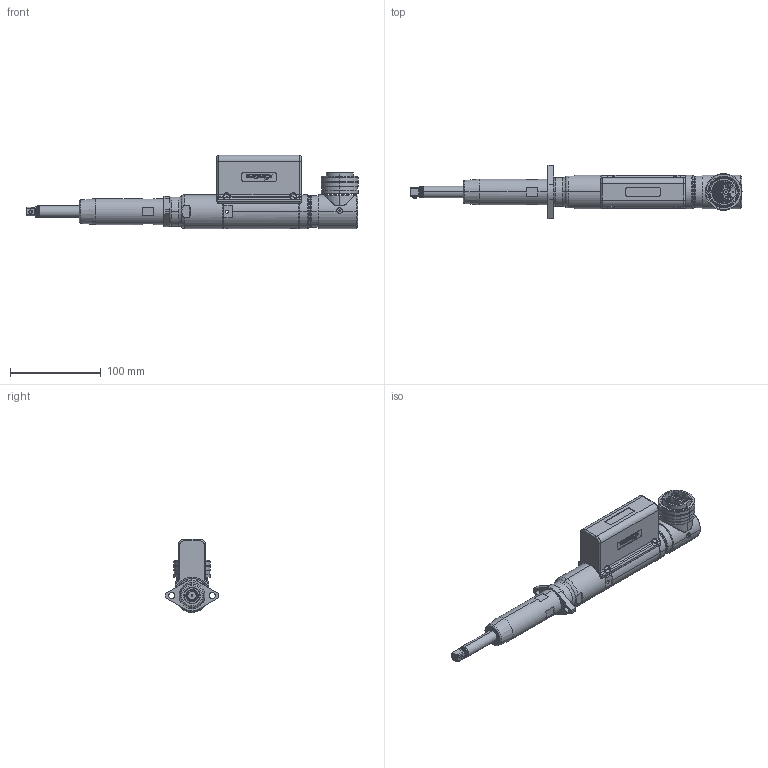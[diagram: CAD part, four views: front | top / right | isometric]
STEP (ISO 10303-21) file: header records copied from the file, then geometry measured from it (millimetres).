
FILE_DESCRIPTION (( 'STEP AP214' ), '1' );
FILE_NAME ('AEF4C12003BB & AEF4C12006BB.STEP', '2012-06-08T21:13:57', ( 'delete me' ), ( '' ), 'SwSTEP 2.0', 'SolidWorks 2012', '' );
FILE_SCHEMA (( 'AUTOMOTIVE_DESIGN' ));
Length unit declared in the file: inch
Products named in the file (1): AEF4C12003BB & AEF4C12006BB
Bounding box: 365.54 x 58.71 x 80.57 mm (x, y, z)
Surface area: 68692.8 mm2 (no closed solid volume)
Topology: 0 solids, 84 shells, 690 faces, 3230 edges, 2594 vertices
Faces by surface type: plane 330, cylinder 190, torus 86, cone 76, sphere 4, bspline 4
Entity records: 43737 total; most frequent: CARTESIAN_POINT 9601, DIRECTION 5108, ORIENTED_EDGE 4362, EDGE_CURVE 3222, VERTEX_POINT 2590, LINE 2302, VECTOR 2302, AXIS2_PLACEMENT_3D 1403
